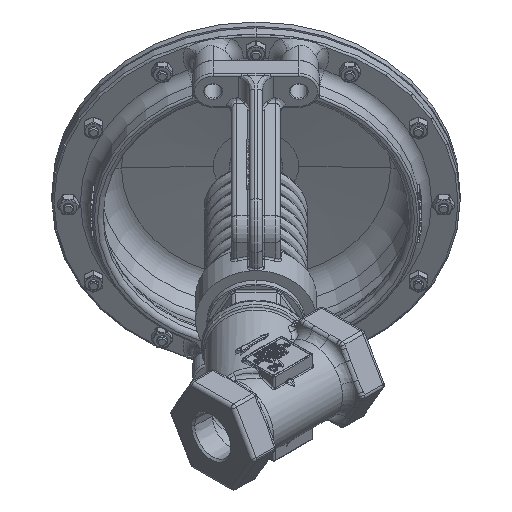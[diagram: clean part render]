
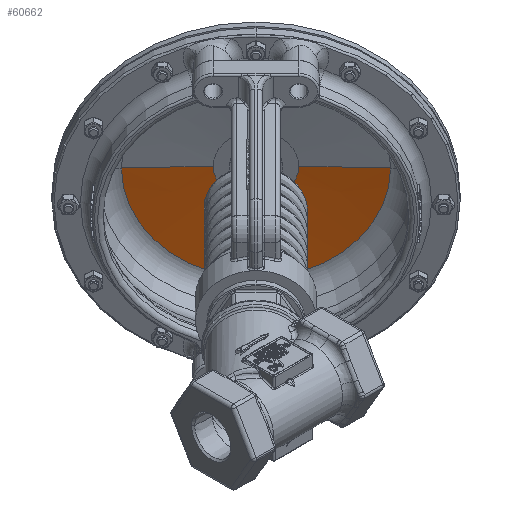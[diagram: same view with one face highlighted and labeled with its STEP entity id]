
A CAD part, isometric view. The second image highlights one B-rep face of the part: STEP entity #60662.
In plain terms, the highlighted conical face has half-angle 88 degrees and reference radius 79.692 mm.
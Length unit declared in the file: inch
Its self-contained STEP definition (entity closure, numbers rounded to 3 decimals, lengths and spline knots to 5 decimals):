
#3734 = DIRECTION ( 'NONE',  ( 0., 0., -1. ) ) ;
#3750 = DIRECTION ( 'NONE',  ( 0., -1., 0. ) ) ;
#3755 = CARTESIAN_POINT ( 'NONE',  ( 0., -0.25175, 0. ) ) ;
#40123 = LINE ( 'NONE', #44622, #40127 ) ;
#40124 = CIRCLE ( 'NONE', #68435, 0.99682 ) ;
#40125 = LINE ( 'NONE', #44638, #40130 ) ;
#40126 = CIRCLE ( 'NONE', #68436, 3.1375 ) ;
#40127 = VECTOR ( 'NONE', #44608, 39.37008 ) ;
#40130 = VECTOR ( 'NONE', #44596, 39.37008 ) ;
#44596 = DIRECTION ( 'NONE',  ( 0., -0.035, -0.999 ) ) ;
#44608 = DIRECTION ( 'NONE',  ( 0., -0.035, 0.999 ) ) ;
#44622 = CARTESIAN_POINT ( 'NONE',  ( 0., -0.25175, 3.1375 ) ) ;
#44624 = CARTESIAN_POINT ( 'NONE',  ( 0., -0.177, 0. ) ) ;
#44627 = DIRECTION ( 'NONE',  ( 0., 1., 0. ) ) ;
#44630 = DIRECTION ( 'NONE',  ( 0., 0., 1. ) ) ;
#44638 = CARTESIAN_POINT ( 'NONE',  ( 0., -0.25175, -3.1375 ) ) ;
#44641 = CARTESIAN_POINT ( 'NONE',  ( 0., -0.25175, 0. ) ) ;
#44644 = DIRECTION ( 'NONE',  ( 0., 1., 0. ) ) ;
#44647 = DIRECTION ( 'NONE',  ( 0., 0., 1. ) ) ;
#48467 = CARTESIAN_POINT ( 'NONE',  ( 0., -0.25175, 3.1375 ) ) ;
#48885 = CARTESIAN_POINT ( 'NONE',  ( 0., -0.177, -0.99682 ) ) ;
#49118 = CARTESIAN_POINT ( 'NONE',  ( 0., -0.177, 0.99682 ) ) ;
#49210 = CARTESIAN_POINT ( 'NONE',  ( 0., -0.25175, -3.1375 ) ) ;
#56325 = AXIS2_PLACEMENT_3D ( 'NONE', #3755, #3750, #3734 ) ;
#60662 = ADVANCED_FACE ( 'NONE', ( #78045 ), #78057, .F. ) ;
#67799 = EDGE_LOOP ( 'NONE', ( #96934, #96180, #96709, #97013 ) ) ;
#68435 = AXIS2_PLACEMENT_3D ( 'NONE', #44624, #44627, #44630 ) ;
#68436 = AXIS2_PLACEMENT_3D ( 'NONE', #44641, #44644, #44647 ) ;
#78045 = FACE_OUTER_BOUND ( 'NONE', #67799, .T. ) ;
#78057 = CONICAL_SURFACE ( 'NONE', #56325, 3.1375, 1.536 ) ;
#85053 = EDGE_CURVE ( 'NONE', #91870, #92161, #40124, .T. ) ;
#85055 = EDGE_CURVE ( 'NONE', #92161, #91333, #40123, .T. ) ;
#85058 = EDGE_CURVE ( 'NONE', #92354, #91333, #40126, .T. ) ;
#85060 = EDGE_CURVE ( 'NONE', #91870, #92354, #40125, .T. ) ;
#91333 = VERTEX_POINT ( 'NONE', #48467 ) ;
#91870 = VERTEX_POINT ( 'NONE', #48885 ) ;
#92161 = VERTEX_POINT ( 'NONE', #49118 ) ;
#92354 = VERTEX_POINT ( 'NONE', #49210 ) ;
#96180 = ORIENTED_EDGE ( 'NONE', *, *, #85055, .T. ) ;
#96709 = ORIENTED_EDGE ( 'NONE', *, *, #85058, .F. ) ;
#96934 = ORIENTED_EDGE ( 'NONE', *, *, #85053, .T. ) ;
#97013 = ORIENTED_EDGE ( 'NONE', *, *, #85060, .F. ) ;
